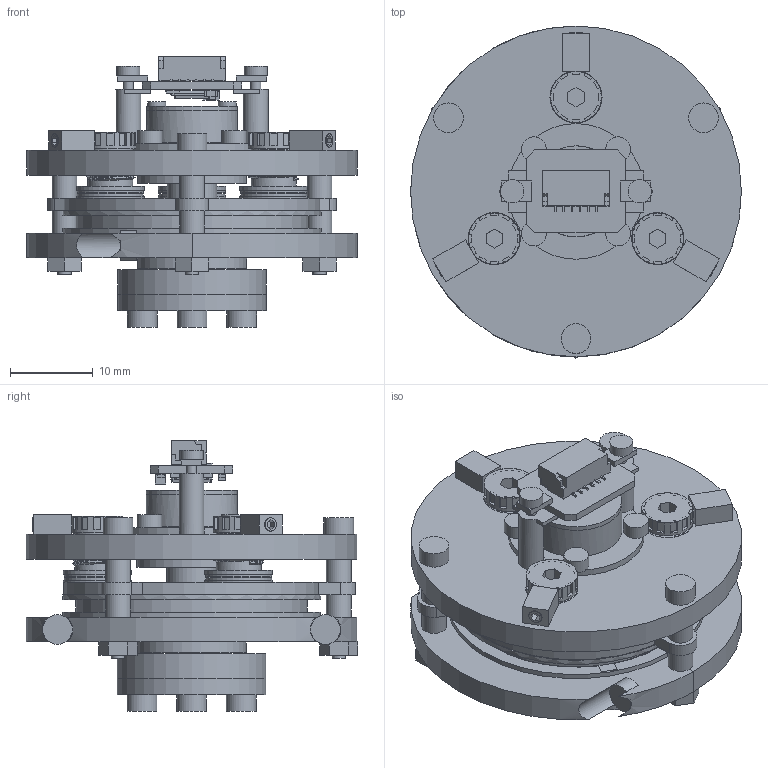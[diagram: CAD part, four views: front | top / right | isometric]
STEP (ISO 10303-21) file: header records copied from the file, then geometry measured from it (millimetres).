
FILE_DESCRIPTION(('Open CASCADE Model'),'2;1');
FILE_NAME('Open CASCADE Shape Model','2026-09-24T19:53:10',('Author'),( 'Open CASCADE'),'Open CASCADE STEP processor 7.8','Open CASCADE 7.8' ,'Unknown');
FILE_SCHEMA(('AUTOMOTIVE_DESIGN { 1 0 10303 214 1 1 1 1 }'));
Length unit declared in the file: millimetre
Products named in the file (76): Open CASCADE STEP translator 7.8 76; Open CASCADE STEP translator 7.8 76.1; Open CASCADE STEP translator 7.8 76.2; Open CASCADE STEP translator 7.8 76.3; Open CASCADE STEP translator 7.8 76.4; Open CASCADE STEP translator 7.8 76.5; Open CASCADE STEP translator 7.8 76.6; Open CASCADE STEP translator 7.8 76.7; Open CASCADE STEP translator 7.8 76.8; Open CASCADE STEP translator 7.8 76.9; Open CASCADE STEP translator 7.8 76.10; Open CASCADE STEP translator 7.8 76.11; Open CASCADE STEP translator 7.8 76.12; Open CASCADE STEP translator 7.8 76.13; Open CASCADE STEP translator 7.8 76.14; Open CASCADE STEP translator 7.8 76.15; Open CASCADE STEP translator 7.8 76.16; Open CASCADE STEP translator 7.8 76.17; Open CASCADE STEP translator 7.8 76.18; Open CASCADE STEP translator 7.8 76.19; Open CASCADE STEP translator 7.8 76.20; Open CASCADE STEP translator 7.8 76.21; Open CASCADE STEP translator 7.8 76.22; Open CASCADE STEP translator 7.8 76.23; Open CASCADE STEP translator 7.8 76.24; Open CASCADE STEP translator 7.8 76.25; Open CASCADE STEP translator 7.8 76.26; Open CASCADE STEP translator 7.8 76.27; Open CASCADE STEP translator 7.8 76.28; Open CASCADE STEP translator 7.8 76.29; Open CASCADE STEP translator 7.8 76.30; Open CASCADE STEP translator 7.8 76.31; Open CASCADE STEP translator 7.8 76.32; Open CASCADE STEP translator 7.8 76.33; Open CASCADE STEP translator 7.8 76.34; Open CASCADE STEP translator 7.8 76.35; Open CASCADE STEP translator 7.8 76.36; Open CASCADE STEP translator 7.8 76.37; Open CASCADE STEP translator 7.8 76.38; Open CASCADE STEP translator 7.8 76.39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
Assembly tree (75 placements, depth 2):
  Open CASCADE STEP translator 7.8 76
    Open CASCADE STEP translator 7.8 76.1
    Open CASCADE STEP translator 7.8 76.2
    Open CASCADE STEP translator 7.8 76.3
    Open CASCADE STEP translator 7.8 76.4
    Open CASCADE STEP translator 7.8 76.5
    Open CASCADE STEP translator 7.8 76.6
    Open CASCADE STEP translator 7.8 76.7
    Open CASCADE STEP translator 7.8 76.8
    Open CASCADE STEP translator 7.8 76.9
    Open CASCADE STEP translator 7.8 76.10
    Open CASCADE STEP translator 7.8 76.11
    Open CASCADE STEP translator 7.8 76.12
    Open CASCADE STEP translator 7.8 76.13
    Open CASCADE STEP translator 7.8 76.14
    Open CASCADE STEP translator 7.8 76.15
    Open CASCADE STEP translator 7.8 76.16
    Open CASCADE STEP translator 7.8 76.17
    Open CASCADE STEP translator 7.8 76.18
    Open CASCADE STEP translator 7.8 76.19
    Open CASCADE STEP translator 7.8 76.20
    Open CASCADE STEP translator 7.8 76.21
    Open CASCADE STEP translator 7.8 76.22
    Open CASCADE STEP translator 7.8 76.23
    Open CASCADE STEP translator 7.8 76.24
    Open CASCADE STEP translator 7.8 76.25
    Open CASCADE STEP translator 7.8 76.26
    Open CASCADE STEP translator 7.8 76.27
    Open CASCADE STEP translator 7.8 76.28
    Open CASCADE STEP translator 7.8 76.29
    Open CASCADE STEP translator 7.8 76.30
    Open CASCADE STEP translator 7.8 76.31
    Open CASCADE STEP translator 7.8 76.32
    Open CASCADE STEP translator 7.8 76.33
    Open CASCADE STEP translator 7.8 76.34
    Open CASCADE STEP translator 7.8 76.35
    Open CASCADE STEP translator 7.8 76.36
    Open CASCADE STEP translator 7.8 76.37
    Open CASCADE STEP translator 7.8 76.38
    Open CASCADE STEP translator 7.8 76.39
    Open CASCADE STEP translator 7.8 76.40
    Open CASCADE STEP translator 7.8 76.41
    Open CASCADE STEP translator 7.8 76.42
    Open CASCADE STEP translator 7.8 76.43
    Open CASCADE STEP translator 7.8 76.44
    Open CASCADE STEP translator 7.8 76.45
    Open CASCADE STEP translator 7.8 76.46
    Open CASCADE STEP translator 7.8 76.47
    Open CASCADE STEP translator 7.8 76.48
    Open CASCADE STEP translator 7.8 76.49
    Open CASCADE STEP translator 7.8 76.50
    Open CASCADE STEP translator 7.8 76.51
    Open CASCADE STEP translator 7.8 76.52
    Open CASCADE STEP translator 7.8 76.53
    Open CASCADE STEP translator 7.8 76.54
    Open CASCADE STEP translator 7.8 76.55
    Open CASCADE STEP translator 7.8 76.56
    Open CASCADE STEP translator 7.8 76.57
    Open CASCADE STEP translator 7.8 76.58
    Open CASCADE STEP translator 7.8 76.59
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Bounding box: 40 x 40.11 x 32.74 mm (x, y, z)
Volume: 13521.8 mm3; surface area: 20462.8 mm2
Topology: 75 solids, 75 shells, 1371 faces, 3257 edges, 2129 vertices
Faces by surface type: plane 938, cylinder 387, bspline 34, cone 12
Full cylindrical faces by diameter (mm): 0.8 x3, 0.96 x2, 1 x2, 1.24 x2, 1.26 x5, 1.3 x8, 1.6 x12, 1.62 x3, 1.66 x9, 1.7 x6, 2.2 x17, 2.8 x2, 3 x9, 3.02 x3, 3.6 x9, 4 x3, 4.12 x9, 4.2 x6, 5.4 x1, 5.42 x24, 5.46 x12, 5.6 x1, 6 x4, 6.1 x1, 6.2 x3, 6.3 x3, 6.4 x1, 8 x6, 8.2 x6, 9.6 x1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
Entity records: 102045 total; most frequent: CARTESIAN_POINT 34706, DIRECTION 12295, LINE 7202, VECTOR 7202, ORIENTED_EDGE 6514, PCURVE 6514, DEFINITIONAL_REPRESENTATION 6514, EDGE_CURVE 3257
